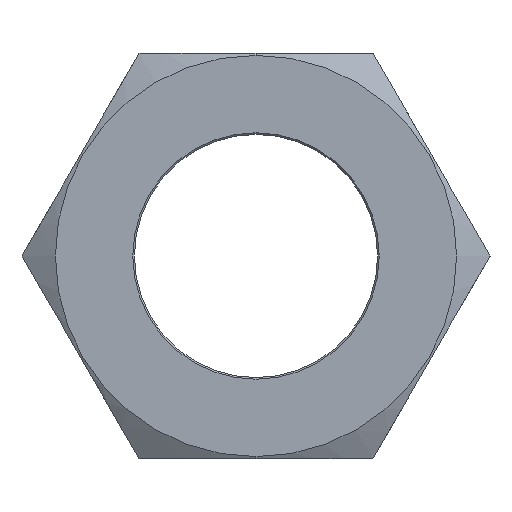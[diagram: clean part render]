
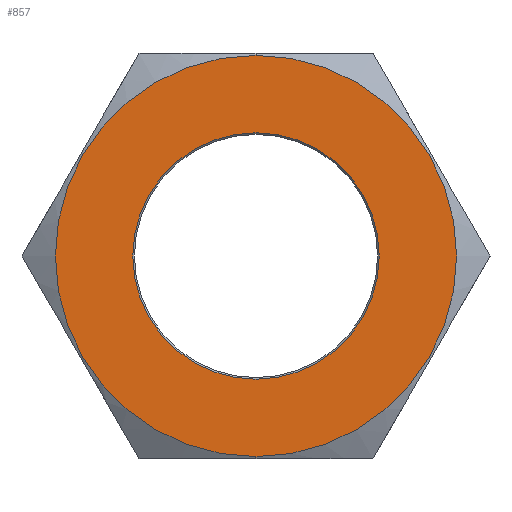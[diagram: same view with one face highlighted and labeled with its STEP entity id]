
A CAD part, left-side view. The second image highlights one B-rep face of the part: STEP entity #857.
In plain terms, the highlighted planar face has unit normal (-1, 0, 0) as drawn and (0, 0, 1) by its records, which use the part's own axes.
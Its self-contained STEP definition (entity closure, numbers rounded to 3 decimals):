
#141=CARTESIAN_POINT('',(24.75,0.0,14.75));
#142=VERTEX_POINT('',#141);
#151=CARTESIAN_POINT('',(-24.75,0.,14.75));
#152=VERTEX_POINT('',#151);
#153=CARTESIAN_POINT('',(0.,0.0,14.75));
#154=DIRECTION('',(0.0,0.0,1.0));
#155=DIRECTION('',(1.0,0.0,0.0));
#156=AXIS2_PLACEMENT_3D('',#153,#154,#155);
#157=CIRCLE('',#156,24.75);
#158=EDGE_CURVE('',#152,#142,#157,.T.);
#471=CARTESIAN_POINT('',(0.,15.2,14.75));
#472=VERTEX_POINT('',#471);
#480=CARTESIAN_POINT('',(0.,-15.2,14.75));
#481=VERTEX_POINT('',#480);
#488=CARTESIAN_POINT('',(0.,0.,14.75));
#489=DIRECTION('',(0.0,0.0,-1.0));
#490=DIRECTION('',(0.0,1.0,0.0));
#491=AXIS2_PLACEMENT_3D('',#488,#489,#490);
#492=CIRCLE('',#491,15.2);
#493=EDGE_CURVE('',#472,#481,#492,.T.);
#504=CARTESIAN_POINT('',(0.,0.,14.75));
#505=DIRECTION('',(0.0,0.0,-1.0));
#506=DIRECTION('',(0.0,1.0,0.0));
#507=AXIS2_PLACEMENT_3D('',#504,#505,#506);
#508=CIRCLE('',#507,15.2);
#509=EDGE_CURVE('',#481,#472,#508,.T.);
#728=CARTESIAN_POINT('',(0.,0.0,14.75));
#729=DIRECTION('',(0.0,0.0,1.0));
#730=DIRECTION('',(1.0,0.0,0.0));
#731=AXIS2_PLACEMENT_3D('',#728,#729,#730);
#732=CIRCLE('',#731,24.75);
#733=EDGE_CURVE('',#142,#152,#732,.T.);
#844=CARTESIAN_POINT('',(0.,0.,14.75));
#845=DIRECTION('',(0.0,0.0,1.0));
#846=DIRECTION('',(1.0,0.0,0.0));
#847=AXIS2_PLACEMENT_3D('',#844,#845,#846);
#848=PLANE('',#847);
#849=ORIENTED_EDGE('',*,*,#733,.T.);
#850=ORIENTED_EDGE('',*,*,#158,.T.);
#851=EDGE_LOOP('',(#849,#850));
#852=FACE_OUTER_BOUND('',#851,.T.);
#853=ORIENTED_EDGE('',*,*,#493,.T.);
#854=ORIENTED_EDGE('',*,*,#509,.T.);
#855=EDGE_LOOP('',(#853,#854));
#856=FACE_BOUND('',#855,.T.);
#857=ADVANCED_FACE('',(#852,#856),#848,.T.);
